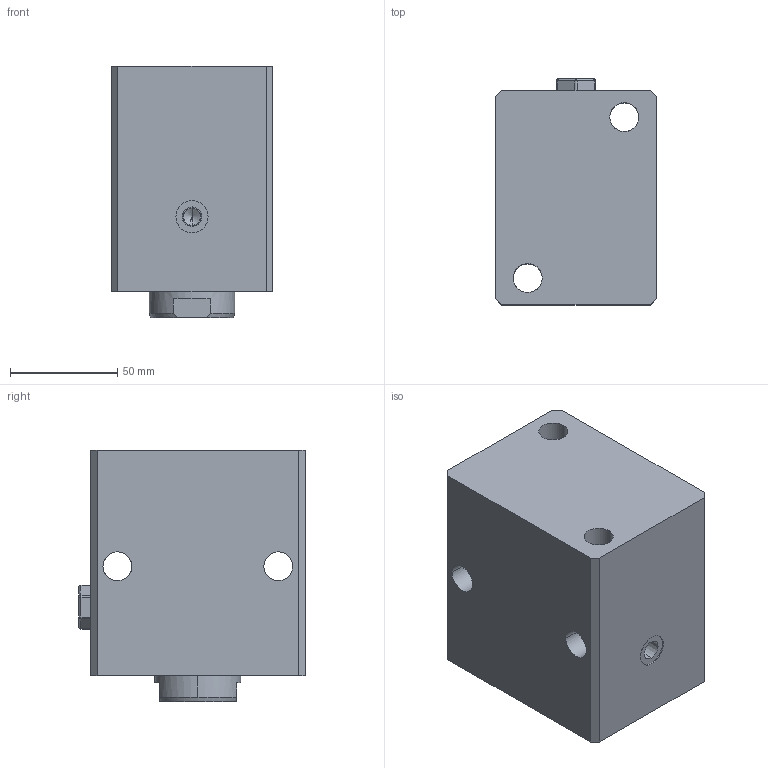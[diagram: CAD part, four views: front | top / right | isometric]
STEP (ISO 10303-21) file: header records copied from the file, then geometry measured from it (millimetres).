
FILE_DESCRIPTION (( 'STEP AP203' ), '1' );
FILE_NAME ('4510 411.STEP', '2016-01-29T10:11:00', ( '' ), ( '' ), 'SwSTEP 2.0', 'SolidWorks 2015', '' );
FILE_SCHEMA (( 'CONFIG_CONTROL_DESIGN' ));
Length unit declared in the file: millimetre
Products named in the file (1): 4510 411
Bounding box: 75 x 105.5 x 117 mm (x, y, z)
Volume: 732794.5 mm3; surface area: 70492.1 mm2
Topology: 1 solids, 2 shells, 103 faces, 249 edges, 145 vertices
Faces by surface type: cylinder 49, plane 31, cone 17, sphere 6
Entity records: 2993 total; most frequent: CARTESIAN_POINT 544, DIRECTION 524, ORIENTED_EDGE 470, EDGE_CURVE 235, AXIS2_PLACEMENT_3D 205, VERTEX_POINT 145, EDGE_LOOP 124, LINE 114
